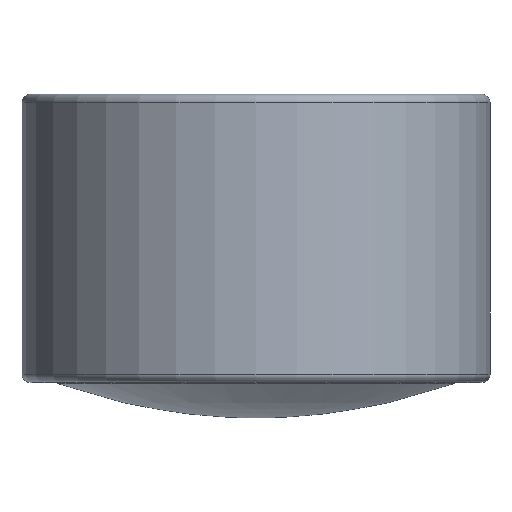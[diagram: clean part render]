
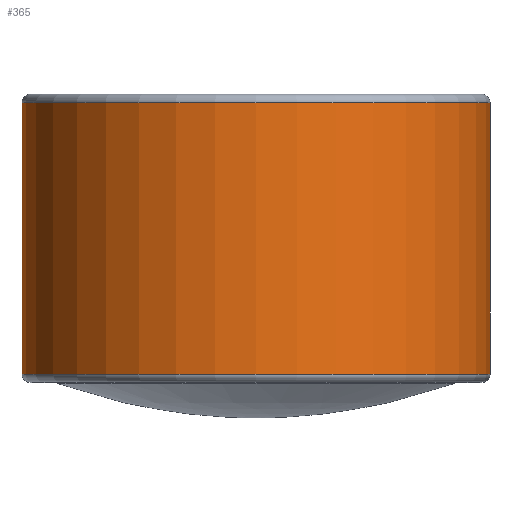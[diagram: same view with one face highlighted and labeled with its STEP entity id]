
A CAD part, front view. The second image highlights one B-rep face of the part: STEP entity #365.
In plain terms, the highlighted cylindrical face has radius 1.395 mm (diameter 2.79 mm), a partial arc.
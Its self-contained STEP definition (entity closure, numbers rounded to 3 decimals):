
#34=CARTESIAN_POINT('',(0.,0.,0.261));
#35=DIRECTION('',(0.,0.,-1.));
#36=DIRECTION('',(1.,0.,0.));
#37=AXIS2_PLACEMENT_3D('',#34,#35,#36);
#39=DIRECTION('',(0.,0.,-1.));
#40=VECTOR('',#39,1.619);
#41=CARTESIAN_POINT('',(-1.395,0.,1.88));
#42=LINE('',#41,#40);
#43=CARTESIAN_POINT('',(0.,0.,1.88));
#44=DIRECTION('',(0.,0.,-1.));
#45=DIRECTION('',(1.,0.,0.));
#46=AXIS2_PLACEMENT_3D('',#43,#44,#45);
#48=DIRECTION('',(0.,0.,-1.));
#49=VECTOR('',#48,1.619);
#50=CARTESIAN_POINT('',(1.395,0.,1.88));
#51=LINE('',#50,#49);
#272=CARTESIAN_POINT('',(1.395,0.,0.261));
#273=CARTESIAN_POINT('',(-1.395,0.,0.261));
#274=VERTEX_POINT('',#272);
#275=VERTEX_POINT('',#273);
#276=CARTESIAN_POINT('',(1.395,0.,1.88));
#277=CARTESIAN_POINT('',(-1.395,0.,1.88));
#278=VERTEX_POINT('',#276);
#279=VERTEX_POINT('',#277);
#351=CARTESIAN_POINT('',(0.,0.,-0.097));
#352=DIRECTION('',(0.,0.,1.));
#353=DIRECTION('',(-1.,0.,0.));
#354=AXIS2_PLACEMENT_3D('',#351,#352,#353);
#355=CYLINDRICAL_SURFACE('',#354,1.395);
#357=ORIENTED_EDGE('',*,*,#356,.T.);
#359=ORIENTED_EDGE('',*,*,#358,.F.);
#360=ORIENTED_EDGE('',*,*,#341,.F.);
#362=ORIENTED_EDGE('',*,*,#361,.T.);
#363=EDGE_LOOP('',(#357,#359,#360,#362));
#364=FACE_OUTER_BOUND('',#363,.F.);
#365=ADVANCED_FACE('',(#364),#355,.T.);
#38=CIRCLE('',#37,1.395);
#47=CIRCLE('',#46,1.395);
#341=EDGE_CURVE('',#278,#279,#47,.T.);
#356=EDGE_CURVE('',#274,#275,#38,.T.);
#358=EDGE_CURVE('',#279,#275,#42,.T.);
#361=EDGE_CURVE('',#278,#274,#51,.T.);
